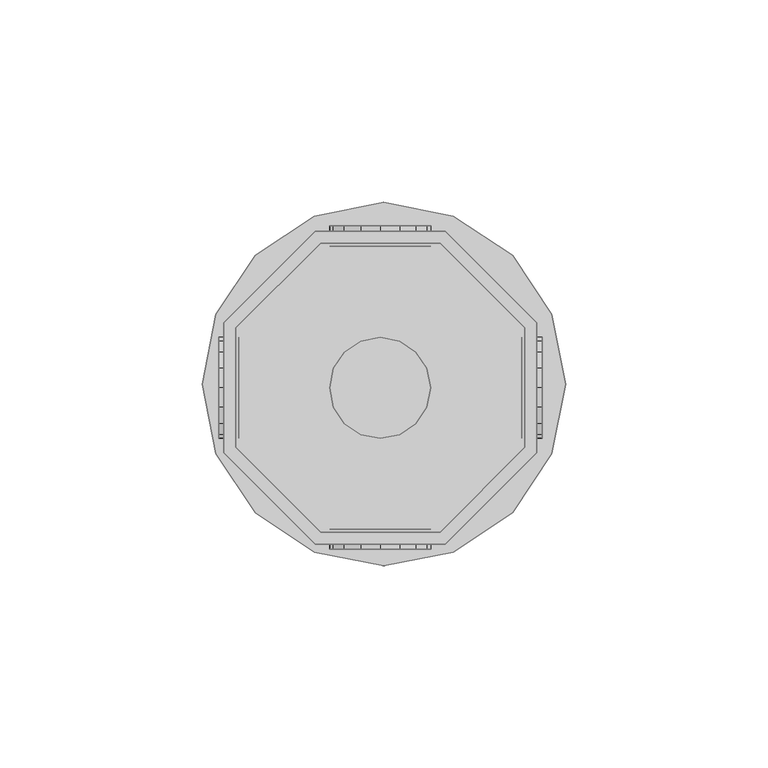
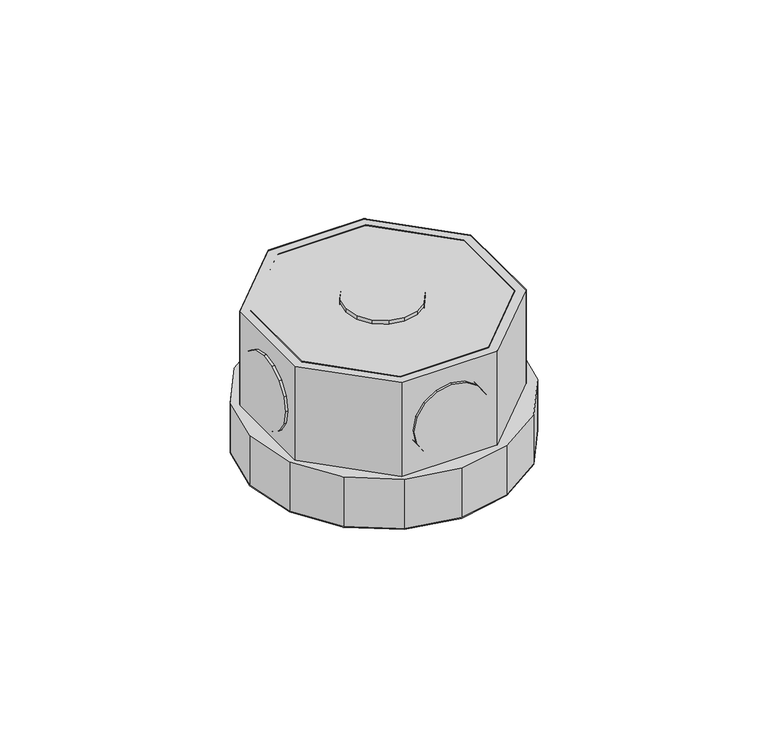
"""IFC4 building model written with IfcOpenShell, lengths in millimetres: light fixture geometry,  212472 :  212472."""

from ifc_helpers import new_model, si_unit, origin, place, context, project, spatial, triangles, source, transform, mapped, element, save


def light_fixture_f138fbcc(model_context):
    return source(origin(), model_context, "Body", "Tessellation", [
        triangles([(19921.6002869, 10112.1002106, 2924.5999741), (19921.6002869, 10082.4996918, 2975.400071), (19921.6002869, 10082.4996918, 2924.5999741), (19921.6002869, 10112.1002106, 2975.400071), (19996.1003906, 10113.3001373, 2924.5999741), (19996.1003906, 10081.1997711, 2975.400071), (19996.1003906, 10081.1997711, 2924.5999741), (19996.1003906, 10113.3001373, 2975.400071), (19942.5990051, 10061.4998108, 2975.400071), (19942.5990051, 10061.4998108, 2924.5999741), (19973.3994507, 10135.9999146, 2924.5999741), (19973.3994507, 10135.9999146, 2975.400071), (19972.1995239, 10061.4998108, 2975.400071), (19972.1995239, 10061.4998108, 2924.5999741), (19941.2990845, 10135.9999146, 2924.5999741), (19941.2990845, 10135.9999146, 2975.400071), (19993.1005737, 10082.4996918, 2975.400071), (19993.1005737, 10082.4996918, 2924.5999741), (19918.60047, 10113.3001373, 2924.5999741), (19918.60047, 10113.3001373, 2975.400071), (19993.1005737, 10112.1002106, 2924.5999741), (19993.1005737, 10112.1002106, 2975.400071), (19918.60047, 10081.1997711, 2975.400071), (19918.60047, 10081.1997711, 2924.5999741), (19972.1995239, 10133.0000977, 2924.5999741), (19972.1995239, 10133.0000977, 2975.400071), (19941.2990845, 10058.4999939, 2975.400071), (19941.2990845, 10058.4999939, 2924.5999741), (19973.3994507, 10058.4999939, 2975.400071), (19942.5990051, 10133.0000977, 2975.400071), (19942.5990051, 10133.0000977, 2924.5999741), (19973.3994507, 10058.4999939, 2924.5999741), (19972.1995239, 10061.4998108, 2972.3999634), (19993.1005737, 10082.4996918, 2972.3999634), (19993.1005737, 10112.1002106, 2972.3999634), (19972.1995239, 10133.0000977, 2972.3999634), (19942.5990051, 10133.0000977, 2972.3999634), (19921.6002869, 10112.1002106, 2972.3999634), (19921.6002869, 10082.4996918, 2972.3999634), (19942.5990051, 10061.4998108, 2972.3999634), (19941.2990845, 10058.4999939, 2942.4000504), (19918.60047, 10081.1997711, 2942.4000504), (19918.60047, 10113.3001373, 2942.4000504), (19941.2990845, 10135.9999146, 2942.4000504), (19973.3994507, 10135.9999146, 2942.4000504), (19996.1003906, 10113.3001373, 2942.4000504), (19996.1003906, 10081.1997711, 2942.4000504), (19973.3994507, 10058.4999939, 2942.4000504), (19999.8001648, 10080.8997894, 2942.4000504), (19975.4993225, 10056.6001099, 2942.4000504), (19990.1007568, 10066.2995178, 2942.4000504), (19958.3003723, 10053.2003174, 2942.4000504), (19940.9991028, 10056.6001099, 2942.4000504), (19926.3999939, 10066.2995178, 2942.4000504), (19916.7005859, 10080.8997894, 2942.4000504), (19913.3007935, 10098.1998962, 2942.4000504), (19916.7005859, 10115.4000092, 2942.4000504), (19940.9991028, 10139.6996887, 2942.4000504), (19926.3999939, 10130.0002808, 2942.4000504), (20003.2999512, 10098.1998962, 2942.4000504), (19999.8001648, 10115.4000092, 2942.4000504), (19990.1007568, 10130.0002808, 2942.4000504), (19975.4993225, 10139.6996887, 2942.4000504), (19958.3003723, 10143.1994751, 2942.4000504), (19975.4993225, 10056.6001099, 2924.5999741), (19999.8001648, 10080.8997894, 2924.5999741), (19990.1007568, 10066.2995178, 2924.5999741), (19958.3003723, 10053.2003174, 2924.5999741), (19940.9991028, 10056.6001099, 2924.5999741), (19926.3999939, 10066.2995178, 2924.5999741), (19916.7005859, 10080.8997894, 2924.5999741), (19913.3007935, 10098.1998962, 2924.5999741), (19916.7005859, 10115.4000092, 2924.5999741), (19940.9991028, 10139.6996887, 2924.5999741), (19926.3999939, 10130.0002808, 2924.5999741), (20003.2999512, 10098.1998962, 2924.5999741), (19999.8001648, 10115.4000092, 2924.5999741), (19990.1007568, 10130.0002808, 2924.5999741), (19975.4993225, 10139.6996887, 2924.5999741), (19958.3003723, 10143.1994751, 2924.5999741), (19917.4005432, 10085.6994965, 2952.6000092), (19917.4005432, 10092.5002441, 2945.9001274), (19917.4005432, 10088.4004944, 2948.5999626), (19917.4005432, 10084.7995514, 2957.4000069), (19917.4005432, 10097.2999512, 2944.8998978), (19917.4005432, 10085.6994965, 2962.2000046), (19917.4005432, 10102.0996582, 2945.9001274), (19917.4005432, 10088.4004944, 2966.2000511), (19917.4005432, 10106.1005768, 2948.5999626), (19917.4005432, 10092.5002441, 2968.8998863), (19917.4005432, 10108.800412, 2952.6000092), (19917.4005432, 10097.2999512, 2969.900116), (19917.4005432, 10109.800351, 2957.4000069), (19917.4005432, 10102.0996582, 2968.8998863), (19917.4005432, 10108.800412, 2962.2000046), (19917.4005432, 10106.1005768, 2966.2000511), (19922.400238, 10092.5002441, 2945.9001274), (19922.400238, 10085.6994965, 2952.6000092), (19922.400238, 10088.4004944, 2948.5999626), (19922.400238, 10097.2999512, 2944.8998978), (19922.400238, 10084.7995514, 2957.4000069), (19922.400238, 10102.0996582, 2945.9001274), (19922.400238, 10085.6994965, 2962.2000046), (19922.400238, 10106.1005768, 2948.5999626), (19922.400238, 10088.4004944, 2966.2000511), (19922.400238, 10092.5002441, 2968.8998863), (19922.400238, 10108.800412, 2952.6000092), (19922.400238, 10097.2999512, 2969.900116), (19922.400238, 10109.800351, 2957.4000069), (19922.400238, 10102.0996582, 2968.8998863), (19922.400238, 10108.800412, 2962.2000046), (19922.400238, 10106.1005768, 2966.2000511), (19992.4006165, 10085.6994965, 2952.6000092), (19992.4006165, 10092.5002441, 2945.9001274), (19992.4006165, 10088.4004944, 2948.5999626), (19992.4006165, 10084.7995514, 2957.4000069), (19992.4006165, 10097.2999512, 2944.8998978), (19992.4006165, 10085.6994965, 2962.2000046), (19992.4006165, 10102.0996582, 2945.9001274), (19992.4006165, 10088.4004944, 2966.2000511), (19992.4006165, 10106.1005768, 2948.5999626), (19992.4006165, 10092.5002441, 2968.8998863), (19992.4006165, 10108.800412, 2952.6000092), (19992.4006165, 10097.2999512, 2969.900116), (19992.4006165, 10109.800351, 2957.4000069), (19992.4006165, 10102.0996582, 2968.8998863), (19992.4006165, 10108.800412, 2962.2000046), (19992.4006165, 10106.1005768, 2966.2000511), (19997.4003113, 10092.5002441, 2945.9001274), (19997.4003113, 10085.6994965, 2952.6000092), (19997.4003113, 10088.4004944, 2948.5999626), (19997.4003113, 10097.2999512, 2944.8998978), (19997.4003113, 10084.7995514, 2957.4000069), (19997.4003113, 10102.0996582, 2945.9001274), (19997.4003113, 10085.6994965, 2962.2000046), (19997.4003113, 10106.1005768, 2948.5999626), (19997.4003113, 10088.4004944, 2966.2000511), (19997.4003113, 10092.5002441, 2968.8998863), (19997.4003113, 10108.800412, 2952.6000092), (19997.4003113, 10097.2999512, 2969.900116), (19997.4003113, 10109.800351, 2957.4000069), (19997.4003113, 10102.0996582, 2968.8998863), (19997.4003113, 10108.800412, 2962.2000046), (19997.4003113, 10106.1005768, 2966.2000511), (19962.2001343, 10062.299762, 2945.9001274), (19968.8997253, 10062.299762, 2952.6000092), (19966.1998901, 10062.299762, 2948.5999626), (19957.4004272, 10062.299762, 2944.8998978), (19969.8996643, 10062.299762, 2957.4000069), (19952.6007202, 10062.299762, 2945.9001274), (19968.8997253, 10062.299762, 2962.2000046), (19948.5009705, 10062.299762, 2948.5999626), (19966.1998901, 10062.299762, 2966.2000511), (19962.2001343, 10062.299762, 2968.8998863), (19945.8011353, 10062.299762, 2952.6000092), (19957.4004272, 10062.299762, 2969.900116), (19944.8988647, 10062.299762, 2957.4000069), (19952.6007202, 10062.299762, 2968.8998863), (19945.8011353, 10062.299762, 2962.2000046), (19948.5009705, 10062.299762, 2966.2000511), (19968.8997253, 10057.3000671, 2952.6000092), (19962.2001343, 10057.3000671, 2945.9001274), (19966.1998901, 10057.3000671, 2948.5999626), (19969.8996643, 10057.3000671, 2957.4000069), (19957.4004272, 10057.3000671, 2944.8998978), (19968.8997253, 10057.3000671, 2962.2000046), (19952.6007202, 10057.3000671, 2945.9001274), (19966.1998901, 10057.3000671, 2966.2000511), (19948.5009705, 10057.3000671, 2948.5999626), (19962.2001343, 10057.3000671, 2968.8998863), (19945.8011353, 10057.3000671, 2952.6000092), (19957.4004272, 10057.3000671, 2969.900116), (19944.8988647, 10057.3000671, 2957.4000069), (19952.6007202, 10057.3000671, 2968.8998863), (19945.8011353, 10057.3000671, 2962.2000046), (19948.5009705, 10057.3000671, 2966.2000511), (19962.2001343, 10137.2998352, 2945.9001274), (19968.8997253, 10137.2998352, 2952.6000092), (19966.1998901, 10137.2998352, 2948.5999626), (19957.4004272, 10137.2998352, 2944.8998978), (19969.8996643, 10137.2998352, 2957.4000069), (19952.6007202, 10137.2998352, 2945.9001274), (19968.8997253, 10137.2998352, 2962.2000046), (19948.5009705, 10137.2998352, 2948.5999626), (19966.1998901, 10137.2998352, 2966.2000511), (19962.2001343, 10137.2998352, 2968.8998863), (19945.8011353, 10137.2998352, 2952.6000092), (19957.4004272, 10137.2998352, 2969.900116), (19944.8988647, 10137.2998352, 2957.4000069), (19952.6007202, 10137.2998352, 2968.8998863), (19945.8011353, 10137.2998352, 2962.2000046), (19948.5009705, 10137.2998352, 2966.2000511), (19968.8997253, 10132.3001404, 2952.6000092), (19962.2001343, 10132.3001404, 2945.9001274), (19966.1998901, 10132.3001404, 2948.5999626), (19969.8996643, 10132.3001404, 2957.4000069), (19957.4004272, 10132.3001404, 2944.8998978), (19968.8997253, 10132.3001404, 2962.2000046), (19952.6007202, 10132.3001404, 2945.9001274), (19966.1998901, 10132.3001404, 2966.2000511), (19948.5009705, 10132.3001404, 2948.5999626), (19962.2001343, 10132.3001404, 2968.8998863), (19945.8011353, 10132.3001404, 2952.6000092), (19957.4004272, 10132.3001404, 2969.900116), (19944.8988647, 10132.3001404, 2957.4000069), (19952.6007202, 10132.3001404, 2968.8998863), (19945.8011353, 10132.3001404, 2962.2000046), (19948.5009705, 10132.3001404, 2966.2000511), (19968.8997253, 10092.5002441, 2976.9999733), (19962.2001343, 10085.6994965, 2976.9999733), (19966.1998901, 10088.4004944, 2976.9999733), (19957.4004272, 10084.7995514, 2976.9999733), (19969.8996643, 10097.2999512, 2976.9999733), (19952.6007202, 10085.6994965, 2976.9999733), (19968.8997253, 10102.0996582, 2976.9999733), (19948.5009705, 10088.4004944, 2976.9999733), (19966.1998901, 10106.1005768, 2976.9999733), (19945.8011353, 10092.5002441, 2976.9999733), (19962.2001343, 10108.800412, 2976.9999733), (19944.8988647, 10097.2999512, 2976.9999733), (19957.4004272, 10109.800351, 2976.9999733), (19945.8011353, 10102.0996582, 2976.9999733), (19952.6007202, 10108.800412, 2976.9999733), (19948.5009705, 10106.1005768, 2976.9999733), (19962.2001343, 10085.6994965, 2971.9999878), (19968.8997253, 10092.5002441, 2971.9999878), (19966.1998901, 10088.4004944, 2971.9999878), (19957.4004272, 10084.7995514, 2971.9999878), (19969.8996643, 10097.2999512, 2971.9999878), (19952.6007202, 10085.6994965, 2971.9999878), (19968.8997253, 10102.0996582, 2971.9999878), (19948.5009705, 10088.4004944, 2971.9999878), (19966.1998901, 10106.1005768, 2971.9999878), (19945.8011353, 10092.5002441, 2971.9999878), (19962.2001343, 10108.800412, 2971.9999878), (19944.8988647, 10097.2999512, 2971.9999878), (19957.4004272, 10109.800351, 2971.9999878), (19945.8011353, 10102.0996582, 2971.9999878), (19952.6007202, 10108.800412, 2971.9999878), (19948.5009705, 10106.1005768, 2971.9999878)], [[1, 2, 3], [2, 1, 4], [5, 6, 7], [6, 5, 8], [3, 9, 10], [9, 3, 2], [11, 8, 5], [8, 11, 12], [10, 13, 14], [13, 10, 9], [15, 12, 11], [12, 15, 16], [14, 17, 18], [17, 14, 13], [19, 16, 15], [16, 19, 20], [17, 21, 18], [21, 17, 22], [23, 19, 24], [19, 23, 20], [22, 25, 21], [25, 22, 26], [27, 24, 28], [24, 27, 23], [6, 13, 29], [29, 13, 27], [27, 13, 9], [27, 9, 23], [23, 9, 2], [23, 2, 4], [23, 4, 20], [20, 4, 30], [8, 17, 6], [6, 17, 13], [17, 8, 22], [12, 22, 8], [22, 12, 26], [30, 26, 12], [16, 30, 12], [20, 30, 16], [30, 1, 31], [1, 30, 4], [6, 32, 7], [32, 6, 29], [32, 14, 7], [28, 14, 32], [14, 28, 10], [24, 10, 28], [10, 24, 3], [1, 3, 24], [19, 1, 24], [31, 1, 19], [7, 18, 5], [14, 18, 7], [5, 18, 21], [5, 21, 11], [11, 21, 25], [11, 25, 31], [11, 31, 15], [15, 31, 19], [26, 31, 25], [31, 26, 30], [29, 28, 32], [28, 29, 27], [17, 33, 34], [33, 17, 13], [35, 17, 34], [17, 35, 22], [36, 22, 35], [22, 36, 26], [37, 26, 36], [26, 37, 30], [38, 30, 37], [30, 38, 4], [2, 38, 39], [38, 2, 4], [17, 9, 13], [9, 17, 22], [9, 22, 2], [2, 22, 26], [2, 26, 4], [4, 26, 30], [13, 40, 33], [40, 13, 9], [40, 34, 33], [35, 34, 40], [35, 40, 39], [35, 39, 36], [36, 39, 38], [36, 38, 37], [9, 39, 40], [39, 9, 2], [24, 41, 28], [41, 24, 42], [19, 42, 24], [42, 19, 43], [44, 19, 15], [19, 44, 43], [45, 15, 11], [15, 45, 44], [46, 11, 5], [11, 46, 45], [47, 5, 7], [5, 47, 46], [32, 47, 7], [47, 32, 48], [28, 48, 32], [48, 28, 41], [49, 50, 51], [48, 50, 49], [50, 48, 52], [41, 52, 48], [52, 41, 53], [53, 41, 54], [42, 54, 41], [54, 42, 55], [55, 42, 43], [55, 43, 56], [56, 43, 57], [57, 43, 44], [57, 44, 58], [57, 58, 59], [47, 49, 60], [49, 47, 48], [47, 60, 46], [61, 46, 60], [46, 61, 62], [46, 62, 45], [45, 62, 63], [44, 45, 63], [44, 63, 64], [44, 64, 58], [65, 66, 67], [66, 65, 32], [68, 32, 65], [32, 68, 28], [28, 68, 69], [70, 28, 69], [28, 70, 24], [71, 24, 70], [19, 24, 71], [19, 71, 72], [73, 19, 72], [19, 73, 15], [74, 15, 73], [74, 73, 75], [76, 66, 7], [32, 7, 66], [5, 76, 7], [76, 5, 77], [77, 5, 78], [11, 78, 5], [78, 11, 79], [79, 11, 15], [79, 15, 80], [80, 15, 74], [57, 75, 73], [75, 57, 59], [56, 73, 72], [73, 56, 57], [55, 72, 71], [72, 55, 56], [54, 71, 70], [71, 54, 55], [53, 70, 69], [70, 53, 54], [52, 69, 68], [69, 52, 53], [50, 68, 65], [68, 50, 52], [51, 65, 67], [65, 51, 50], [66, 51, 67], [51, 66, 49], [76, 49, 66], [49, 76, 60], [77, 60, 76], [60, 77, 61], [78, 61, 77], [61, 78, 62], [79, 62, 78], [62, 79, 63], [80, 63, 79], [63, 80, 64], [75, 58, 74], [58, 75, 59], [74, 64, 80], [64, 74, 58], [81, 82, 83], [82, 81, 84], [85, 82, 84], [85, 84, 86], [87, 85, 86], [87, 86, 88], [87, 88, 89], [89, 88, 90], [89, 90, 91], [91, 90, 92], [91, 92, 93], [93, 92, 94], [93, 94, 95], [95, 94, 96], [97, 98, 99], [98, 97, 100], [101, 98, 100], [101, 100, 102], [103, 101, 102], [103, 102, 104], [103, 104, 105], [105, 104, 106], [106, 104, 107], [106, 107, 108], [108, 107, 109], [108, 109, 110], [110, 109, 111], [110, 111, 112], [87, 104, 102], [104, 87, 89], [85, 102, 100], [102, 85, 87], [82, 100, 97], [100, 82, 85], [83, 97, 99], [97, 83, 82], [98, 83, 99], [83, 98, 81], [101, 81, 98], [81, 101, 84], [103, 84, 101], [84, 103, 86], [105, 86, 103], [86, 105, 88], [106, 88, 105], [88, 106, 90], [108, 90, 106], [90, 108, 92], [110, 92, 108], [92, 110, 94], [112, 94, 110], [94, 112, 96], [95, 112, 111], [112, 95, 96], [93, 111, 109], [111, 93, 95], [89, 107, 104], [107, 89, 91], [91, 109, 107], [109, 91, 93], [113, 114, 115], [114, 113, 116], [117, 114, 116], [117, 116, 118], [119, 117, 118], [119, 118, 120], [119, 120, 121], [121, 120, 122], [121, 122, 123], [123, 122, 124], [123, 124, 125], [125, 124, 126], [125, 126, 127], [127, 126, 128], [129, 130, 131], [130, 129, 132], [133, 130, 132], [133, 132, 134], [135, 133, 134], [135, 134, 136], [135, 136, 137], [137, 136, 138], [138, 136, 139], [138, 139, 140], [140, 139, 141], [140, 141, 142], [142, 141, 143], [142, 143, 144], [119, 136, 134], [136, 119, 121], [117, 134, 132], [134, 117, 119], [114, 132, 129], [132, 114, 117], [115, 129, 131], [129, 115, 114], [130, 115, 131], [115, 130, 113], [133, 113, 130], [113, 133, 116], [135, 116, 133], [116, 135, 118], [137, 118, 135], [118, 137, 120], [138, 120, 137], [120, 138, 122], [140, 122, 138], [122, 140, 124], [142, 124, 140], [124, 142, 126], [144, 126, 142], [126, 144, 128], [127, 144, 143], [144, 127, 128], [125, 143, 141], [143, 125, 127], [121, 139, 136], [139, 121, 123], [123, 141, 139], [141, 123, 125], [145, 146, 147], [146, 145, 148], [149, 146, 148], [149, 148, 150], [151, 149, 150], [151, 150, 152], [151, 152, 153], [153, 152, 154], [154, 152, 155], [154, 155, 156], [156, 155, 157], [156, 157, 158], [158, 157, 159], [158, 159, 160], [161, 162, 163], [162, 161, 164], [165, 162, 164], [165, 164, 166], [167, 165, 166], [167, 166, 168], [169, 167, 168], [169, 168, 170], [169, 170, 171], [171, 170, 172], [171, 172, 173], [173, 172, 174], [173, 174, 175], [175, 174, 176], [158, 176, 174], [176, 158, 160], [156, 174, 172], [174, 156, 158], [154, 172, 170], [172, 154, 156], [153, 170, 168], [170, 153, 154], [151, 168, 166], [168, 151, 153], [149, 166, 164], [166, 149, 151], [146, 164, 161], [164, 146, 149], [147, 161, 163], [161, 147, 146], [162, 147, 163], [147, 162, 145], [165, 145, 162], [145, 165, 148], [167, 148, 165], [148, 167, 150], [169, 150, 167], [150, 169, 152], [171, 152, 169], [152, 171, 155], [173, 155, 171], [155, 173, 157], [176, 159, 175], [159, 176, 160], [175, 157, 173], [157, 175, 159], [177, 178, 179], [178, 177, 180], [181, 178, 180], [181, 180, 182], [183, 181, 182], [183, 182, 184], [183, 184, 185], [185, 184, 186], [186, 184, 187], [186, 187, 188], [188, 187, 189], [188, 189, 190], [190, 189, 191], [190, 191, 192], [193, 194, 195], [194, 193, 196], [197, 194, 196], [197, 196, 198], [199, 197, 198], [199, 198, 200], [201, 199, 200], [201, 200, 202], [201, 202, 203], [203, 202, 204], [203, 204, 205], [205, 204, 206], [205, 206, 207], [207, 206, 208], [190, 208, 206], [208, 190, 192], [188, 206, 204], [206, 188, 190], [186, 204, 202], [204, 186, 188], [185, 202, 200], [202, 185, 186], [183, 200, 198], [200, 183, 185], [181, 198, 196], [198, 181, 183], [178, 196, 193], [196, 178, 181], [179, 193, 195], [193, 179, 178], [194, 179, 195], [179, 194, 177], [197, 177, 194], [177, 197, 180], [199, 180, 197], [180, 199, 182], [201, 182, 199], [182, 201, 184], [203, 184, 201], [184, 203, 187], [205, 187, 203], [187, 205, 189], [208, 191, 207], [191, 208, 192], [207, 189, 205], [189, 207, 191], [209, 210, 211], [212, 210, 209], [212, 209, 213], [214, 212, 213], [214, 213, 215], [216, 214, 215], [216, 215, 217], [216, 217, 218], [218, 217, 219], [218, 219, 220], [220, 219, 221], [220, 221, 222], [222, 221, 223], [222, 223, 224], [225, 226, 227], [226, 225, 228], [229, 226, 228], [229, 228, 230], [231, 229, 230], [231, 230, 232], [231, 232, 233], [233, 232, 234], [233, 234, 235], [235, 234, 236], [235, 236, 237], [237, 236, 238], [237, 238, 239], [239, 238, 240], [222, 240, 238], [240, 222, 224], [220, 238, 236], [238, 220, 222], [218, 236, 234], [236, 218, 220], [216, 234, 232], [234, 216, 218], [214, 232, 230], [232, 214, 216], [212, 230, 228], [230, 212, 214], [210, 228, 225], [228, 210, 212], [211, 225, 227], [225, 211, 210], [226, 211, 227], [211, 226, 209], [229, 209, 226], [209, 229, 213], [231, 213, 229], [213, 231, 215], [233, 215, 231], [215, 233, 217], [235, 217, 233], [217, 235, 219], [237, 219, 235], [219, 237, 221], [240, 223, 239], [223, 240, 224], [239, 221, 237], [221, 239, 223]], closed=False),
    ])


if __name__ == "__main__":
    model = new_model("IFC4")
    model_context = context("Model", 3, world=origin())
    ifc_project = project(units=[si_unit("LENGTHUNIT", "METRE", prefix="MILLI")], contexts=[model_context])
    site = spatial("IfcSite", under=ifc_project)
    building = spatial("IfcBuilding", under=site)
    placement = place(None, origin())
    light_fixture_shape = light_fixture_f138fbcc(model_context)
    element("IfcLightFixture", 1, ObjectType=" 212472 :  212472", at=placement, inside=building, context=model_context, shape_type="MappedRepresentation", body=[
        mapped(light_fixture_shape, transform((0.0, 0.0, 0.0), x_axis=(1.0, 0.0, 0.0), y_axis=(0.0, 1.0, 0.0), z_axis=(0.0, 0.0, 1.0))),
    ])
    save(model, "model.ifc")
